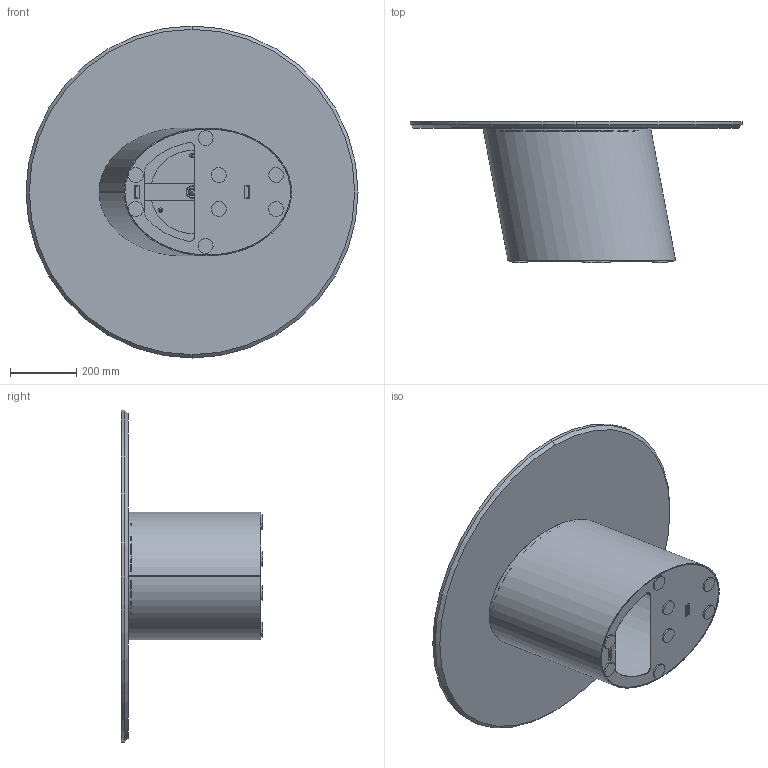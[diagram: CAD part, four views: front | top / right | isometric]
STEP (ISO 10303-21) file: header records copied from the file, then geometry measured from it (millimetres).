
FILE_DESCRIPTION (( 'STEP AP203' ), '1' );
FILE_NAME ('D203M.STEP', '2024-08-07T11:23:09', ( '' ), ( '' ), 'SwSTEP 2.0', 'SolidWorks 2022', '' );
FILE_SCHEMA (( 'CONFIG_CONTROL_DESIGN' ));
Length unit declared in the file: millimetre
Products named in the file (9): M8xXXmm_M8x20mm; P0000003-00-STAFFA DI FISSAGGIO DIAMETRO 250_P0000003-250mm normale; P0000005-00-FILETTO M24 CON FORO H.20mm; M0XMXX-00-Piani Rotondi in marmo_D.100 CON PIASTRA; D2B000001-00-BASAMENTO DORADO LOW H420_Default<A macchina>; D203M; Parte2^Dxxxx-00-DORADO LOW; M8xXXmm_M8x24mm; M0X-00- D. piani marmo_D.1000
Assembly tree (17 placements, depth 3):
  D203M
    D2B000001-00-BASAMENTO DORADO LOW H420_Default<A macchina>
    Parte2^Dxxxx-00-DORADO LOW  x8
    M0XMXX-00-Piani Rotondi in marmo_D.100 CON PIASTRA
      M0X-00- D. piani marmo_D.1000
      P0000003-00-STAFFA DI FISSAGGIO DIAMETRO 250_P0000003-250mm normale
      M8xXXmm_M8x24mm
      P0000005-00-FILETTO M24 CON FORO H.20mm
      M8xXXmm_M8x20mm  x3
Bounding box: 1000 x 425 x 1000 mm (x, y, z)
Volume: 18111442.1 mm3; surface area: 3408128.9 mm2
Topology: 22 solids, 22 shells, 357 faces, 843 edges, 522 vertices
Faces by surface type: plane 142, cylinder 120, cone 62, bspline 17, torus 16
Entity records: 14238 total; most frequent: CARTESIAN_POINT 6923, ORIENTED_EDGE 1290, DIRECTION 1253, EDGE_CURVE 645, AXIS2_PLACEMENT_3D 479, VERTEX_POINT 414, EDGE_LOOP 301, LINE 295
